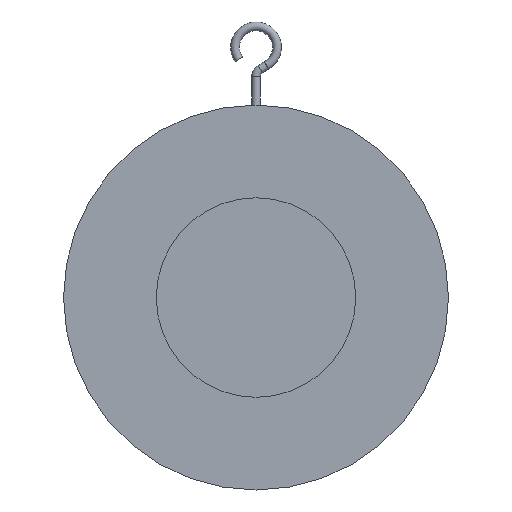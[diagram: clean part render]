
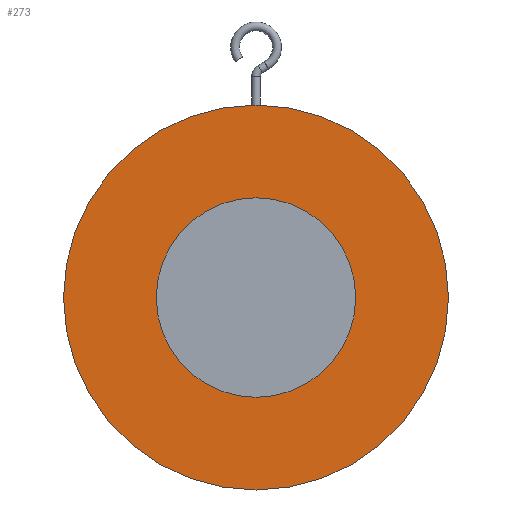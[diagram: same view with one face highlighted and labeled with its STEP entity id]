
A CAD part, front view. The second image highlights one B-rep face of the part: STEP entity #273.
In plain terms, the highlighted planar face has unit normal (0, -1, 0).
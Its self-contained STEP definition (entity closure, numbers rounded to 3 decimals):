
#273=ADVANCED_FACE('',(#525,#527),#529,.T.);
#525=FACE_BOUND('',#526,.T.);
#526=EDGE_LOOP('',(#702));
#527=FACE_BOUND('',#528,.T.);
#528=EDGE_LOOP('',(#703));
#529=PLANE('',#530);
#530=AXIS2_PLACEMENT_3D('',#531,#532,#533);
#531=CARTESIAN_POINT('',(0.,-9.5,0.));
#532=DIRECTION('',(0.,-1.,0.));
#533=DIRECTION('',(0.,0.,1.));
#702=ORIENTED_EDGE('',*,*,#772,.F.);
#703=ORIENTED_EDGE('',*,*,#774,.T.);
#772=EDGE_CURVE('',#877,#877,#878,.T.);
#774=EDGE_CURVE('',#881,#881,#882,.T.);
#877=VERTEX_POINT('',#1391);
#878=CIRCLE('',#1392,110.);
#881=VERTEX_POINT('',#1401);
#882=CIRCLE('',#1402,57.);
#1391=CARTESIAN_POINT('',(0.,-9.5,110.));
#1392=AXIS2_PLACEMENT_3D('',#1393,#1394,#1395);
#1393=CARTESIAN_POINT('',(0.,-9.5,0.));
#1394=DIRECTION('',(0.,1.,0.));
#1395=DIRECTION('',(0.,0.,1.));
#1401=CARTESIAN_POINT('',(0.,-9.5,57.));
#1402=AXIS2_PLACEMENT_3D('',#1403,#1404,#1405);
#1403=CARTESIAN_POINT('',(0.,-9.5,0.));
#1404=DIRECTION('',(0.,1.,0.));
#1405=DIRECTION('',(0.,0.,1.));
